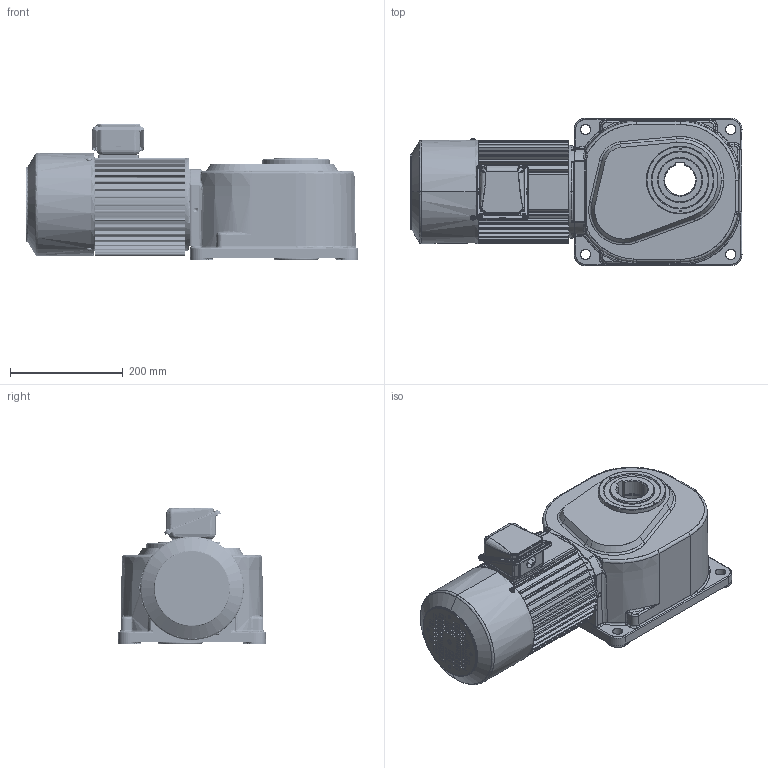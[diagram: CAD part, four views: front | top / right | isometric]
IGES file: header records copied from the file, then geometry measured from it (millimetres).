
Start section: SolidWorks IGES file using analytic representation for surfaces
Global section: file name: \\100.100.100.8\1_共有作業フォルダ\1-5_３Ｄデータ\solidworks\personal-folder\H.Nagayama\HF外形\HF\sldasm\TMHFB-15-(5~240).IGS; native system: SolidWorks 2018; preprocessor: SolidWorks 2018; author: sigma-giken; date: 200219.164013; units: millimetre
Bounding box: 590 x 262 x 242 mm (x, y, z)
Surface area: 1068955.5 mm2 (no closed solid volume)
Topology: 0 solids, 0 shells, 2620 faces, 30423 edges, 30357 vertices
Faces by surface type: bspline 1381, revolution 1239
